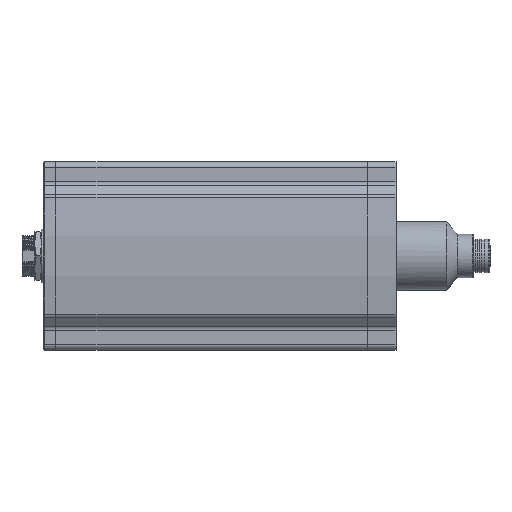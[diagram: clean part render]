
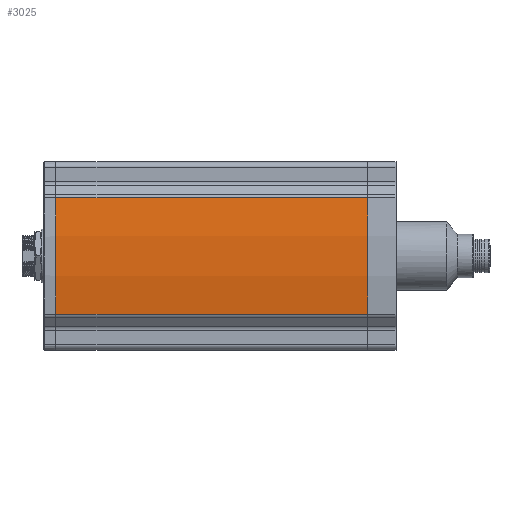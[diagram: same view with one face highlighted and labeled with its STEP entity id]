
A CAD part, front view. The second image highlights one B-rep face of the part: STEP entity #3025.
In plain terms, the highlighted cylindrical face has radius 165.451 mm (diameter 330.901 mm), a partial arc.
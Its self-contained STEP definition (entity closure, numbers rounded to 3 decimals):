
#1606=CYLINDRICAL_SURFACE('',#26018,165.451);
#3025=ADVANCED_FACE('',(#4741),#1606,.T.);
#4741=FACE_OUTER_BOUND('',#6478,.T.);
#6478=EDGE_LOOP('',(#12651,#12652,#12653,#12654));
#12651=ORIENTED_EDGE('',*,*,#18627,.T.);
#12652=ORIENTED_EDGE('',*,*,#18742,.F.);
#12653=ORIENTED_EDGE('',*,*,#18385,.T.);
#12654=ORIENTED_EDGE('',*,*,#18743,.F.);
#15215=VERTEX_POINT('',#79207);
#15216=VERTEX_POINT('',#79209);
#15455=VERTEX_POINT('',#79690);
#15456=VERTEX_POINT('',#79692);
#18385=EDGE_CURVE('',#15216,#15215,#20964,.T.);
#18627=EDGE_CURVE('',#15456,#15455,#21139,.T.);
#18742=EDGE_CURVE('',#15216,#15455,#22281,.T.);
#18743=EDGE_CURVE('',#15456,#15215,#22282,.T.);
#20964=CIRCLE('',#25758,165.451);
#21139=CIRCLE('',#25934,165.451);
#22281=LINE('',#79914,#23655);
#22282=LINE('',#79915,#23656);
#23655=VECTOR('',#31367,1.);
#23656=VECTOR('',#31368,1.);
#25758=AXIS2_PLACEMENT_3D('',#79208,#30739,#30740);
#25934=AXIS2_PLACEMENT_3D('',#79691,#31158,#31159);
#26018=AXIS2_PLACEMENT_3D('',#79916,#31369,#31370);
#30739=DIRECTION('',(1.,0.,0.));
#30740=DIRECTION('',(0.,-0.987,0.158));
#31158=DIRECTION('',(-1.,0.,0.));
#31159=DIRECTION('',(0.,-0.987,-0.158));
#31367=DIRECTION('',(1.,0.,0.));
#31368=DIRECTION('',(-1.,0.,0.));
#31369=DIRECTION('',(-1.,0.,0.));
#31370=DIRECTION('',(0.,-0.987,-0.158));
#79207=CARTESIAN_POINT('',(-70.,-32.707,-26.212));
#79208=CARTESIAN_POINT('',(-70.,130.654,0.));
#79209=CARTESIAN_POINT('',(-70.,-32.707,26.212));
#79690=CARTESIAN_POINT('',(70.,-32.707,26.212));
#79691=CARTESIAN_POINT('',(70.,130.654,0.));
#79692=CARTESIAN_POINT('',(70.,-32.707,-26.212));
#79914=CARTESIAN_POINT('',(-70.,-32.707,26.212));
#79915=CARTESIAN_POINT('',(70.,-32.707,-26.212));
#79916=CARTESIAN_POINT('',(0.,130.654,0.));
